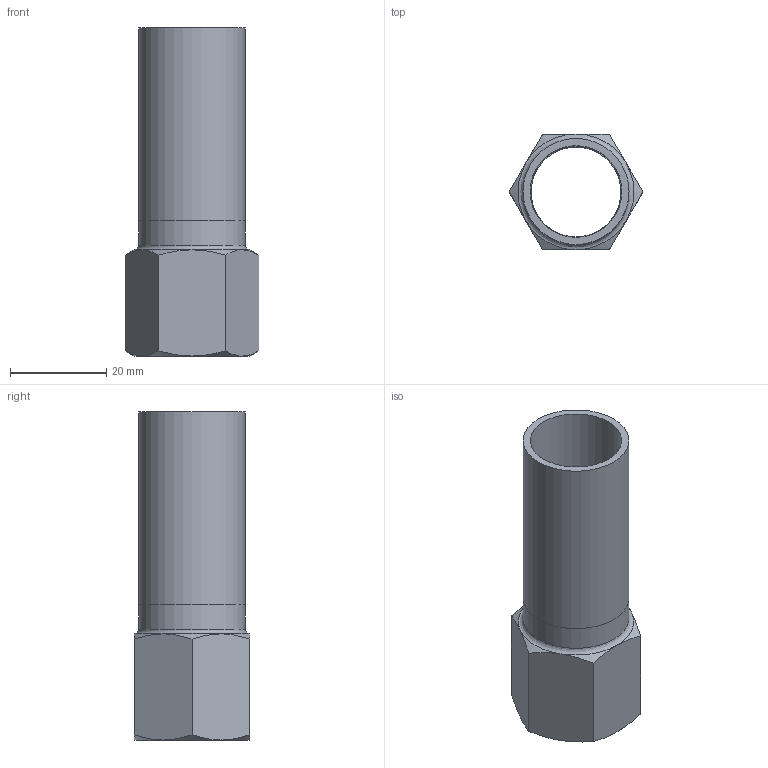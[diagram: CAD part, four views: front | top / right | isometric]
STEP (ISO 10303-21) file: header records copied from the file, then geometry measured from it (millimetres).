
FILE_DESCRIPTION((''),'2;1');
FILE_NAME('G:\Nirosan-Schmiedefeld\Technics\CAD\001 Serie 9.000\022\69246G2212H(1).stp','2017-06-22T13:35:44',('herberg'),(''),'Autodesk Inventor 2009','Autodesk Inventor 2009','');
FILE_SCHEMA(('AUTOMOTIVE_DESIGN { 1 0 10303 214 1 1 1 1 }'));
Length unit declared in the file: millimetre
Products named in the file (3): 69246G2212H(1); 69FXE22P(0); IG2212(1)
Assembly tree (2 placements, depth 2):
  69246G2212H(1)
    69FXE22P(0)
    IG2212(1)
Bounding box: 27.71 x 24 x 68 mm (x, y, z)
Volume: 9332.7 mm3; surface area: 9582.7 mm2
Topology: 2 solids, 2 shells, 30 faces, 61 edges, 36 vertices
Faces by surface type: cone 13, plane 10, bspline 4, cylinder 3
Full cylindrical faces by diameter (mm): 19 x1, 22 x2
Entity records: 864 total; most frequent: CARTESIAN_POINT 252, DIRECTION 114, ORIENTED_EDGE 106, AXIS2_PLACEMENT_3D 54, EDGE_CURVE 53, EDGE_LOOP 42, VERTEX_POINT 35, FACE_OUTER_BOUND 30
